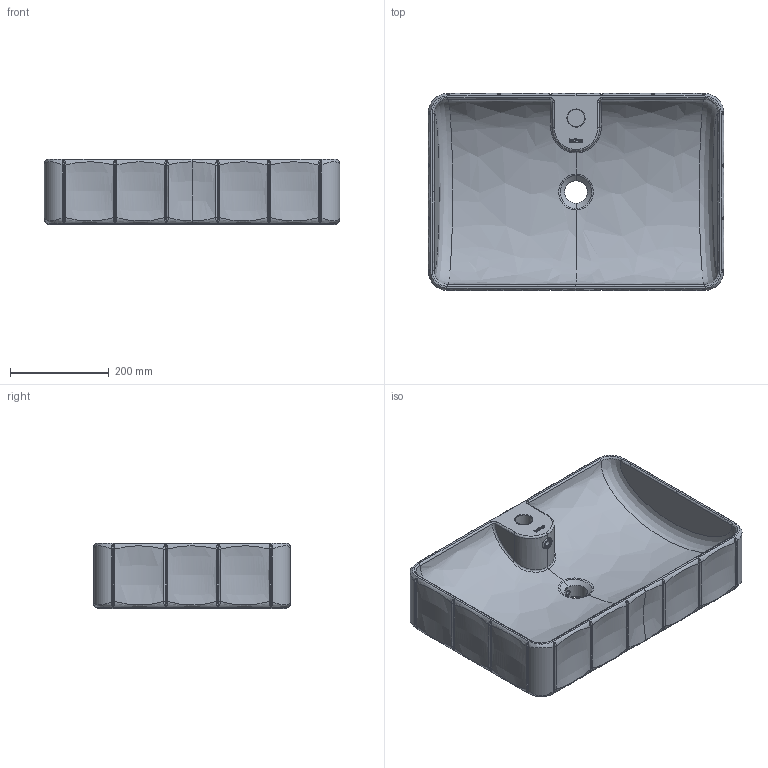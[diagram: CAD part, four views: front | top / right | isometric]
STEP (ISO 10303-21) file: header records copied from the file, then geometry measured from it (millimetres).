
FILE_DESCRIPTION(/* description */ (''),/* implementation_level */ '2;1');
FILE_NAME(/* name */ '4160_C~1',/* time_stamp */ '2022-06-18T12:16:09+02:00',/* author */ (''),/* organization */ (''),/* preprocessor_version */ 'ST-DEVELOPER v16.5',/* originating_system */ '',/* authorisation */ '');
FILE_SCHEMA (('CONFIG_CONTROL_DESIGN'));
Length unit declared in the file: millimetre
Products named in the file (1): Document
Bounding box: 600 x 400 x 133.25 mm (x, y, z)
Volume: 6435853.7 mm3; surface area: 978950.9 mm2
Topology: 8 solids, 8 shells, 463 faces, 1142 edges, 692 vertices
Faces by surface type: bspline 334, plane 81, cylinder 48
Full cylindrical faces by diameter (mm): 19 x1, 35 x1
Entity records: 90975 total; most frequent: CARTESIAN_POINT 84329, ORIENTED_EDGE 2300, EDGE_CURVE 1150, VERTEX_POINT 700, B_SPLINE_CURVE_WITH_KNOTS 530, EDGE_LOOP 472, ADVANCED_FACE 463, FACE_OUTER_BOUND 463
